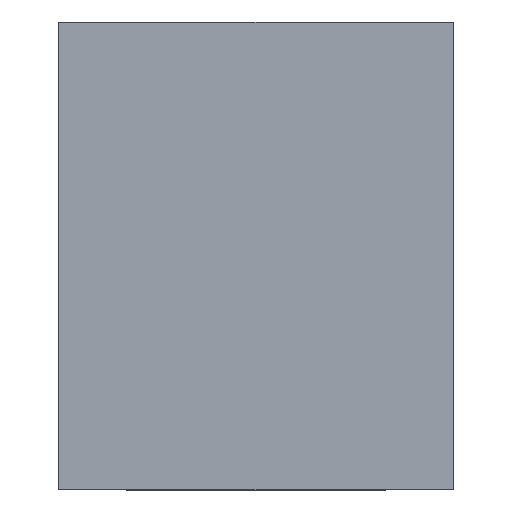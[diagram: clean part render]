
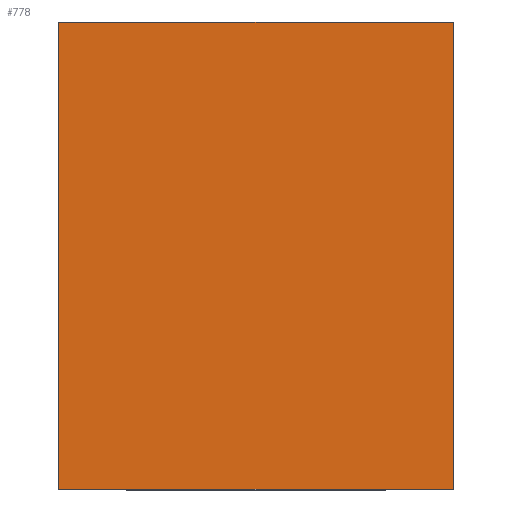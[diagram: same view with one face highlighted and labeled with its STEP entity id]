
A CAD part, top view. The second image highlights one B-rep face of the part: STEP entity #778.
In plain terms, the highlighted planar face has unit normal (0, 0, 1).
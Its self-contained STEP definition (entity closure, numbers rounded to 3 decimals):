
#363=DIRECTION('',(1.,0.,0.));
#364=VECTOR('',#363,11.4);
#365=CARTESIAN_POINT('',(-5.7,0.,5.3));
#366=LINE('',#365,#364);
#386=DIRECTION('',(0.,1.,0.));
#387=VECTOR('',#386,13.5);
#388=CARTESIAN_POINT('',(5.7,0.,5.3));
#389=LINE('',#388,#387);
#393=DIRECTION('',(0.,1.,0.));
#394=VECTOR('',#393,13.5);
#395=CARTESIAN_POINT('',(-5.7,0.,5.3));
#396=LINE('',#395,#394);
#451=DIRECTION('',(1.,0.,0.));
#452=VECTOR('',#451,11.4);
#453=CARTESIAN_POINT('',(-5.7,13.5,5.3));
#454=LINE('',#453,#452);
#692=CARTESIAN_POINT('',(5.7,0.,5.3));
#694=VERTEX_POINT('',#692);
#702=CARTESIAN_POINT('',(-5.7,0.,5.3));
#703=VERTEX_POINT('',#702);
#704=CARTESIAN_POINT('',(5.7,13.5,5.3));
#706=VERTEX_POINT('',#704);
#714=CARTESIAN_POINT('',(-5.7,13.5,5.3));
#715=VERTEX_POINT('',#714);
#765=CARTESIAN_POINT('',(-5.7,0.,5.3));
#766=DIRECTION('',(0.,0.,1.));
#767=DIRECTION('',(1.,0.,0.));
#768=AXIS2_PLACEMENT_3D('',#765,#766,#767);
#769=PLANE('',#768);
#770=ORIENTED_EDGE('',*,*,#739,.F.);
#772=ORIENTED_EDGE('',*,*,#771,.T.);
#774=ORIENTED_EDGE('',*,*,#773,.T.);
#775=ORIENTED_EDGE('',*,*,#756,.F.);
#776=EDGE_LOOP('',(#770,#772,#774,#775));
#777=FACE_OUTER_BOUND('',#776,.F.);
#739=EDGE_CURVE('',#703,#694,#366,.T.);
#756=EDGE_CURVE('',#694,#706,#389,.T.);
#771=EDGE_CURVE('',#703,#715,#396,.T.);
#773=EDGE_CURVE('',#715,#706,#454,.T.);
#778=ADVANCED_FACE('',(#777),#769,.T.);
